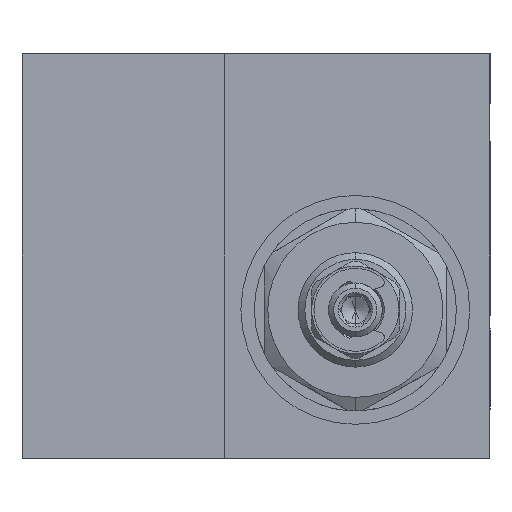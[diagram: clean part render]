
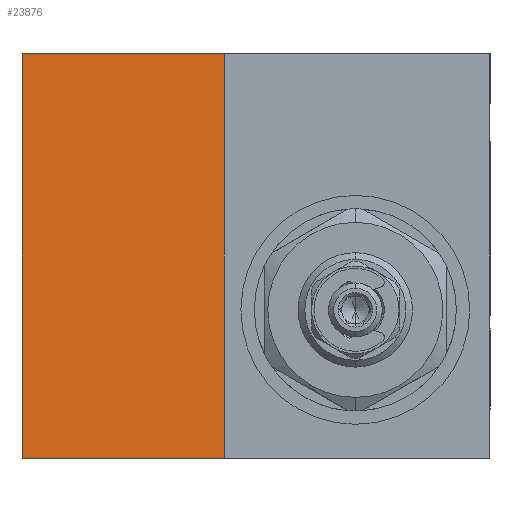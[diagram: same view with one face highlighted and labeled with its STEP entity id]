
A CAD part, left-side view. The second image highlights one B-rep face of the part: STEP entity #23876.
In plain terms, the highlighted planar face has unit normal (-1, 0, 0).
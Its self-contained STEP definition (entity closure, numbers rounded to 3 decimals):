
#659 = DIRECTION ( 'NONE',  ( 0., -1., 0. ) ) ;
#4034 = VERTEX_POINT ( 'NONE', #22073 ) ;
#4782 = DIRECTION ( 'NONE',  ( 0., 0., -1. ) ) ;
#4817 = CARTESIAN_POINT ( 'NONE',  ( 26., 19.75, 30. ) ) ;
#5093 = VECTOR ( 'NONE', #4782, 1000. ) ;
#5160 = ORIENTED_EDGE ( 'NONE', *, *, #20223, .F. ) ;
#5266 = CARTESIAN_POINT ( 'NONE',  ( 26., 49.75, 30. ) ) ;
#6891 = AXIS2_PLACEMENT_3D ( 'NONE', #7501, #21040, #9436 ) ;
#7067 = CARTESIAN_POINT ( 'NONE',  ( 26., 19.75, -30. ) ) ;
#7501 = CARTESIAN_POINT ( 'NONE',  ( 26., 49.75, -30. ) ) ;
#8129 = LINE ( 'NONE', #9692, #16998 ) ;
#9436 = DIRECTION ( 'NONE',  ( 0., 0., 1. ) ) ;
#9536 = EDGE_CURVE ( 'NONE', #24137, #4034, #13459, .T. ) ;
#9692 = CARTESIAN_POINT ( 'NONE',  ( 26., 19.75, 30. ) ) ;
#10014 = VERTEX_POINT ( 'NONE', #5266 ) ;
#10762 = ORIENTED_EDGE ( 'NONE', *, *, #9536, .F. ) ;
#11640 = EDGE_LOOP ( 'NONE', ( #10762, #19797, #5160, #15982 ) ) ;
#11762 = DIRECTION ( 'NONE',  ( 0., 0., 1. ) ) ;
#11774 = EDGE_CURVE ( 'NONE', #18945, #24137, #16818, .T. ) ;
#11905 = CARTESIAN_POINT ( 'NONE',  ( 26., 49.75, 30. ) ) ;
#13459 = LINE ( 'NONE', #17255, #21928 ) ;
#15584 = FACE_OUTER_BOUND ( 'NONE', #11640, .T. ) ;
#15718 = EDGE_CURVE ( 'NONE', #4034, #10014, #23176, .T. ) ;
#15982 = ORIENTED_EDGE ( 'NONE', *, *, #15718, .F. ) ;
#16818 = LINE ( 'NONE', #4817, #5093 ) ;
#16848 = DIRECTION ( 'NONE',  ( 0., 1., 0. ) ) ;
#16998 = VECTOR ( 'NONE', #659, 1000. ) ;
#17255 = CARTESIAN_POINT ( 'NONE',  ( 26., 19.75, -30. ) ) ;
#18945 = VERTEX_POINT ( 'NONE', #19905 ) ;
#19797 = ORIENTED_EDGE ( 'NONE', *, *, #11774, .F. ) ;
#19905 = CARTESIAN_POINT ( 'NONE',  ( 26., 19.75, 30. ) ) ;
#20223 = EDGE_CURVE ( 'NONE', #10014, #18945, #8129, .T. ) ;
#20966 = PLANE ( 'NONE',  #6891 ) ;
#21040 = DIRECTION ( 'NONE',  ( -1., 0., 0. ) ) ;
#21928 = VECTOR ( 'NONE', #16848, 1000. ) ;
#22073 = CARTESIAN_POINT ( 'NONE',  ( 26., 49.75, -30. ) ) ;
#23032 = VECTOR ( 'NONE', #11762, 1000. ) ;
#23176 = LINE ( 'NONE', #11905, #23032 ) ;
#23876 = ADVANCED_FACE ( 'NONE', ( #15584 ), #20966, .T. ) ;
#24137 = VERTEX_POINT ( 'NONE', #7067 ) ;
